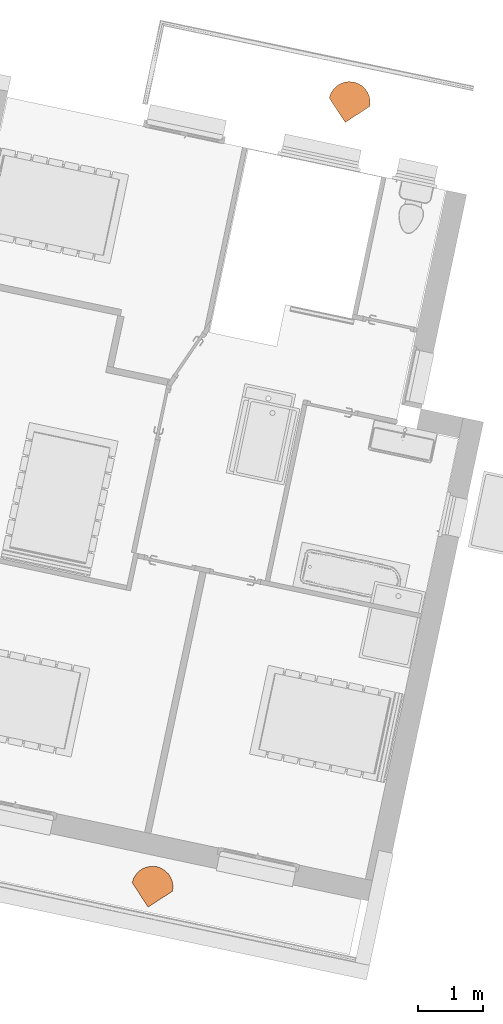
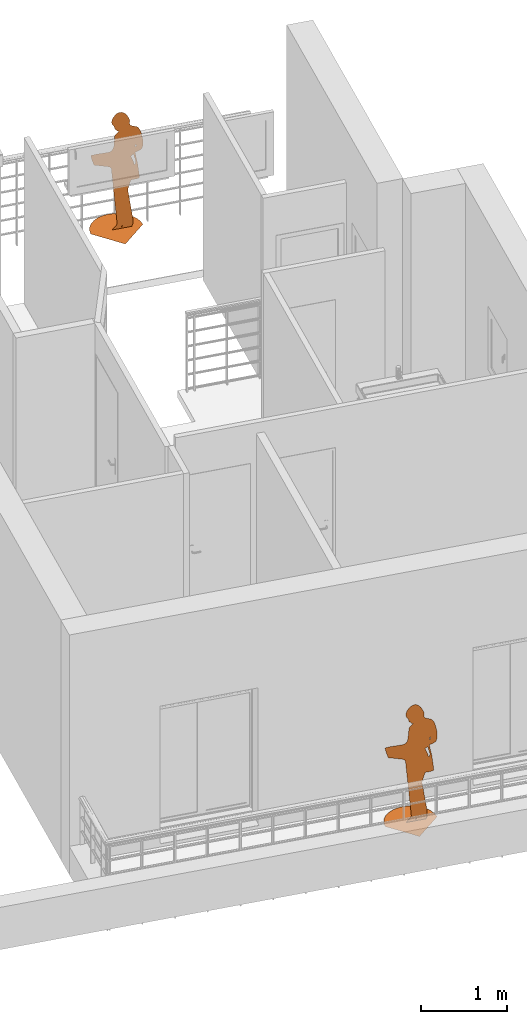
# One storey, part 18 of 18: 2 proxies.
"""IFC2X3 building model written with IfcOpenShell, lengths in metres."""

from ifc_helpers import new_model, entity, si_unit, converted_unit, derived_unit, direction, frame, origin, place, context, subcontext, project, spatial, face_set, surface_model, source, transform, mapped, type_object, type_shapes, element, save


model = new_model("IFC2X3")

# Units and contexts
model_context = context("Model", 3, precision=1e-05, world=origin(), true_north=direction((6.12303176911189e-17, 1.0)))
body_context = subcontext(model_context, "Body", "Model", "MODEL_VIEW")
ifc_project = project(units=[si_unit("LENGTHUNIT", "METRE"), si_unit("AREAUNIT", "SQUARE_METRE"), si_unit("VOLUMEUNIT", "CUBIC_METRE"), converted_unit("PLANEANGLEUNIT", "DEGREE", entity("IfcRatioMeasure", 0.0174532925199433), si_unit("PLANEANGLEUNIT", "RADIAN"), dimensions=[0, 0, 0, 0, 0, 0, 0]), si_unit("MASSUNIT", "GRAM", prefix="KILO"), derived_unit("MASSDENSITYUNIT", [(si_unit("MASSUNIT", "GRAM", prefix="KILO"), 1), (si_unit("LENGTHUNIT", "METRE"), -3)]), si_unit("TIMEUNIT", "SECOND"), si_unit("FREQUENCYUNIT", "HERTZ"), si_unit("THERMODYNAMICTEMPERATUREUNIT", "DEGREE_CELSIUS"), derived_unit("THERMALTRANSMITTANCEUNIT", [(si_unit("MASSUNIT", "GRAM", prefix="KILO"), 1), (si_unit("THERMODYNAMICTEMPERATUREUNIT", "KELVIN"), -1), (si_unit("TIMEUNIT", "SECOND"), -3)]), derived_unit("VOLUMETRICFLOWRATEUNIT", [(si_unit("LENGTHUNIT", "METRE"), 3), (si_unit("TIMEUNIT", "SECOND"), -1)]), si_unit("ELECTRICCURRENTUNIT", "AMPERE"), si_unit("ELECTRICVOLTAGEUNIT", "VOLT"), si_unit("POWERUNIT", "WATT"), si_unit("FORCEUNIT", "NEWTON", prefix="KILO"), si_unit("ILLUMINANCEUNIT", "LUX"), si_unit("LUMINOUSFLUXUNIT", "LUMEN"), si_unit("LUMINOUSINTENSITYUNIT", "CANDELA"), derived_unit("USERDEFINED", [(si_unit("MASSUNIT", "GRAM", prefix="KILO"), -1), (si_unit("LENGTHUNIT", "METRE"), -2), (si_unit("TIMEUNIT", "SECOND"), 3), (si_unit("LUMINOUSFLUXUNIT", "LUMEN"), 1)]), derived_unit("LINEARVELOCITYUNIT", [(si_unit("LENGTHUNIT", "METRE"), 1), (si_unit("TIMEUNIT", "SECOND"), -1)]), si_unit("PRESSUREUNIT", "PASCAL"), derived_unit("USERDEFINED", [(si_unit("LENGTHUNIT", "METRE"), -2), (si_unit("MASSUNIT", "GRAM", prefix="KILO"), 1), (si_unit("TIMEUNIT", "SECOND"), -2)])], contexts=[model_context])

# Site, building, storey, space
site_placement = place(None, origin())
site = spatial("IfcSite", under=ifc_project, at=site_placement, Name="Default", CompositionType="ELEMENT")
building_placement = place(site_placement, origin())
building = spatial("IfcBuilding", under=site, at=building_placement, CompositionType="ELEMENT")
storey_placement = place(building_placement, frame((0.0, 0.0, 2.8)))
storey = spatial("IfcBuildingStorey", under=building, at=storey_placement, Name="ETAGE", CompositionType="ELEMENT", Elevation=2.8)
space_1_placement = place(storey_placement, origin())
space_1 = spatial("IfcSpace", under=storey, at=space_1_placement, Name="656", CompositionType="ELEMENT", InteriorOrExteriorSpace="INTERNAL")

# Proxy
building_element_proxy_type_1 = type_object("IfcBuildingElementProxyType", Name="Lisa", PredefinedType="NOTDEFINED")
shared_shape_1 = source(origin(), body_context, "Body", "SurfaceModel", [
    surface_model("IfcFaceBasedSurfaceModel", [(0.318654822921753, 2.78576924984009e-08, 4.24172741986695e-08), (-4.17865344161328e-08, 0.318654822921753, 4.24172741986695e-08), (-0.318654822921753, 0.0, 4.24172741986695e-08), (0.310230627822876, -0.0730145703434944, 4.24172741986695e-08), (-0.310230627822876, -0.0730146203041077, 4.24172741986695e-08), (0.286238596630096, -0.140066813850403, 4.24172741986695e-08), (-0.286238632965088, -0.14006686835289, 4.24172741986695e-08), (-0.248599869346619, -0.199235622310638, 4.24172741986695e-08), (0.248599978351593, -0.199235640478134, 4.24172741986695e-08), (0.199235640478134, -0.248599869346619, 4.24172741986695e-08), (-0.199235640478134, -0.248599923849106, 4.24172741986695e-08), (-0.140066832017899, -0.286238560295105, 4.24172741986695e-08), (-0.0730145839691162, -0.310230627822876, 4.24172741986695e-08), (1.39288462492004e-08, -0.318654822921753, 4.24172741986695e-08), (0.0730146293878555, -0.310230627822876, 4.24172741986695e-08), (0.140066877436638, -0.286238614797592, 4.24172741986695e-08), (-0.211632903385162, 4.18688860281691e-07, 0.86958950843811), (-0.133775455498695, -2.28444324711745e-06, 0.531148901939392), (-0.171402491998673, -1.25225027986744e-06, 0.660382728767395), (-0.174873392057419, 1.37999741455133e-06, 0.989948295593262), (-0.171280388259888, 1.43756228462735e-06, 0.997155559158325), (-0.0645414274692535, -6.23517512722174e-06, 0.0365050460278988), (-0.181166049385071, 1.2656338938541e-06, 0.975629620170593), (-0.188972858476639, 1.11095285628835e-06, 0.956263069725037), (0.0516611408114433, -6.44441624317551e-06, 0.0103074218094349), (0.0564128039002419, -6.52674214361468e-06, 0.0), (-0.183261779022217, -6.52674214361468e-06, 0.0), (0.042646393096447, -6.36638715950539e-06, 0.0200769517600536), (-0.233749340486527, 2.42748774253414e-06, 1.12109733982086), (-0.228229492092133, 2.40965013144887e-06, 1.11886397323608), (-0.22322620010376, 1.77577831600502e-06, 1.03950130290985), (-0.241853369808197, -1.25381847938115e-06, 0.660186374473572), (-0.258831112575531, -1.22941754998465e-06, 0.663241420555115), (-0.271669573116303, -1.17811702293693e-06, 0.669664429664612), (-0.278426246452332, -1.09142624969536e-06, 0.68051834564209), (-0.253934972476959, 5.4655446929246e-07, 0.885598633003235), (-0.224559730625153, 5.03259847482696e-07, 0.880177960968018), (-0.229693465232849, 6.60111227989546e-07, 0.899816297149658), (-0.22886419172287, 8.63417954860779e-07, 0.925270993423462), (-0.202521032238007, 1.62470223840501e-06, 1.02058610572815), (-0.285405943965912, 1.94348737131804e-06, 1.06049893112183), (-0.295989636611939, 1.99623259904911e-06, 1.0671027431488), (-0.303727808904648, 2.05811147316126e-06, 1.07485023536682), (-0.317308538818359, 2.33260377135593e-06, 1.10921746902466), (-0.237153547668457, 2.46397603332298e-06, 1.12566573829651), (-0.23876551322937, 2.51163382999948e-06, 1.13163267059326), (-0.238908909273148, 2.56298328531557e-06, 1.13806178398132), (-0.237907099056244, 2.61054183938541e-06, 1.14401621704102), (-0.317994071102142, 3.13314370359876e-06, 1.20944754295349), (-0.236083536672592, 2.646829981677e-06, 1.14855961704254), (-0.233761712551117, 2.66436820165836e-06, 1.15075555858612), (-0.225250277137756, 2.42301849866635e-06, 1.12053770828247), (-0.0627427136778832, -6.24094838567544e-06, 0.035782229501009), (-0.066984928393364, -6.2499689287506e-06, 0.034652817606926), (-0.294042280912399, 3.99015323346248e-06, 1.31674797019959), (-0.230288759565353, 2.65538591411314e-06, 1.1496309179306), (0.317035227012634, 2.36809215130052e-06, 1.11366080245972), (0.317668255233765, 2.36430014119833e-06, 1.11318597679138), (0.317994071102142, 2.36026584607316e-06, 1.11268092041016), (0.31348046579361, 2.37804718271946e-06, 1.11490716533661), (0.303952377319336, 1.81530806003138e-06, 1.04445056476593), (0.255927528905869, 2.40043276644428e-06, 1.11770997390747), (0.280753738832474, 1.23499315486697e-06, 0.971793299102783), (0.27324831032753, 1.18284393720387e-06, 0.965264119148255), (0.0939398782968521, 2.36546443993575e-06, 1.1133317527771), (0.0985043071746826, 7.07794528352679e-07, 0.905786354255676), (0.0648742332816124, 2.45548635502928e-06, 1.12460279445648), (0.0771590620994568, 5.85066560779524e-07, 0.89042043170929), (-0.276826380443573, 4.33523169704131e-06, 1.35995274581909), (-0.258249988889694, 4.56890589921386e-06, 1.38920953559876), (-0.246257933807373, 4.64888296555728e-06, 1.39922287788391), (-0.17419383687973, 4.91311113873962e-06, 1.43230501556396), (-0.227347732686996, 2.62045972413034e-06, 1.145257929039), (-0.2238898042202, 2.46086874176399e-06, 1.12527673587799), (-0.0606268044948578, -6.26122326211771e-06, 0.0332437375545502), (0.0471253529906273, 2.64929690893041e-06, 1.14886853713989), (0.0682314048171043, 4.39482785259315e-07, 0.87219298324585), (-0.163307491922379, 5.00621678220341e-06, 1.44396215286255), (-0.065059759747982, 6.61297509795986e-06, 1.64513330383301), (-0.0320003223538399, 6.65984033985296e-06, 1.65100096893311), (0.00246410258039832, 6.55177345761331e-06, 1.63747054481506), (-0.0952937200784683, 6.45076555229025e-06, 1.62482407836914), (0.0289675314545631, 6.35039246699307e-06, 1.61225711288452), (-0.121281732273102, 6.21280174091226e-06, 1.59503040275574), (0.047236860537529, 6.14530346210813e-06, 1.58657946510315), (0.058191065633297, 5.94359036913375e-06, 1.56132432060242), (0.0627491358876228, 5.7523365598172e-06, 1.53737854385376), (0.0618300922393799, 5.57862651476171e-06, 1.51562972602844), (0.0563528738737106, 5.42954249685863e-06, 1.49696385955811), (-0.154837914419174, 5.66796870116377e-06, 1.52681567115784), (0.0332519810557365, 5.14997274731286e-06, 1.46196090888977), (-0.159565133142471, 5.44027788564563e-06, 1.49830796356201), (-0.15723640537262, 5.3901814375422e-06, 1.49203567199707), (-0.156608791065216, 5.18203531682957e-06, 1.46597519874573), (0.0230950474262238, 4.84034357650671e-06, 1.42319437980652), (0.0216613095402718, 4.82252426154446e-06, 1.42096326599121), (0.0209385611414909, 4.8135408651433e-06, 1.41983847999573), (0.0204209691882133, 4.80985391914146e-06, 1.41937688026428), (0.0196026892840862, 4.80792173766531e-06, 1.41913488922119), (0.0179778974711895, 4.80420762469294e-06, 1.41866994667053), (0.015040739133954, 4.79516878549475e-06, 1.41753832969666), (0.0102853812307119, 4.77726686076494e-06, 1.41529689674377), (-0.158168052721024, 5.11227441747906e-06, 1.45724084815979), (-0.00552967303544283, 4.60236368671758e-06, 1.39339852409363), (-0.00913058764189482, 4.57753501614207e-06, 1.3902898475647), (-0.0138403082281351, 4.56198081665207e-06, 1.38834243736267), (-0.0202838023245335, 4.55656156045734e-06, 1.38766399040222), (-0.0231512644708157, 4.53969974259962e-06, 1.38555292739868), (-0.16043608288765, 5.0517780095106e-06, 1.44966660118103), (-0.019312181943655, 4.49289992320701e-06, 1.3796932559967), (0.0201347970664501, 4.16976488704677e-06, 1.3392358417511), (0.0252754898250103, 4.09585769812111e-06, 1.32998248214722), (0.0377544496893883, 2.91605715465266e-06, 1.18226773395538), (-0.225155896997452, 2.56967439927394e-06, 1.13889945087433), (-0.00336177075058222, -5.8615466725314e-06, 0.0832845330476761), (-3.6687809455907e-05, -5.99486996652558e-06, 0.066592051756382), (-0.0585206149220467, -6.29060129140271e-06, 0.0295655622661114), (0.00802700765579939, -6.10689657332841e-06, 0.0525659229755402), (-0.0556450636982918, -6.3550618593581e-06, 0.0214948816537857), (0.0190289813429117, -6.20274663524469e-06, 0.0405652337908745), (-0.0555294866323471, -6.37934469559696e-06, 0.0184546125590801), (-0.0567312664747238, -6.39112573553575e-06, 0.0169795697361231), (-0.0586376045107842, -6.38577550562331e-06, 0.0176494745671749), (-0.0612032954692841, -6.36664496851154e-06, 0.0200446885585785), (-0.0660977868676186, -6.30657214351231e-06, 0.0275659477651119), (-0.0673191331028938, -6.27539554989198e-06, 0.0314693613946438), (-0.196662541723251, -6.21638168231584e-06, 0.0388580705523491), (-0.19543543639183, -5.61610806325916e-06, 0.114014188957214), (-0.209623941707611, 5.69822840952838e-07, 0.88851189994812), (-0.204387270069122, 7.46565884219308e-07, 0.910640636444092), (-0.197108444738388, 9.32436544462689e-07, 0.933912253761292)], [face_set([[[0, 1, 2]], [[3, 0, 2]], [[3, 2, 4]], [[5, 3, 4]], [[5, 4, 6]], [[5, 6, 7]], [[8, 5, 7]], [[9, 8, 7]], [[9, 7, 10]], [[9, 10, 11]], [[9, 11, 12]], [[9, 12, 13]], [[9, 13, 14]], [[9, 14, 15]], [[16, 17, 18]], [[19, 20, 21]], [[22, 19, 21]], [[23, 22, 21]], [[24, 25, 26]], [[27, 24, 26]], [[28, 29, 30]], [[16, 18, 31]], [[16, 31, 32]], [[16, 32, 33]], [[16, 33, 34]], [[16, 34, 35]], [[36, 16, 35]], [[37, 36, 35]], [[38, 37, 35]], [[39, 38, 35]], [[39, 35, 30]], [[28, 30, 40]], [[28, 40, 41]], [[28, 41, 42]], [[28, 42, 43]], [[44, 28, 43]], [[45, 44, 43]], [[46, 45, 43]], [[47, 46, 43]], [[47, 43, 48]], [[49, 47, 48]], [[50, 49, 48]], [[30, 29, 51]], [[52, 21, 20]], [[23, 21, 53]], [[50, 48, 54]], [[55, 50, 54]], [[39, 30, 51]], [[56, 57, 58]], [[59, 56, 58]], [[59, 58, 60]], [[61, 59, 60]], [[61, 60, 62]], [[61, 62, 63]], [[64, 61, 63]], [[64, 63, 65]], [[66, 64, 65]], [[66, 65, 67]], [[55, 54, 68]], [[55, 68, 69]], [[55, 69, 70]], [[55, 70, 71]], [[72, 55, 71]], [[20, 39, 51]], [[20, 51, 73]], [[74, 52, 20]], [[75, 66, 67]], [[75, 67, 76]], [[72, 71, 77]], [[78, 79, 80]], [[81, 78, 80]], [[81, 80, 82]], [[83, 81, 82]], [[83, 82, 84]], [[83, 84, 85]], [[83, 85, 86]], [[83, 86, 87]], [[83, 87, 88]], [[89, 83, 88]], [[89, 88, 90]], [[91, 89, 90]], [[92, 91, 90]], [[93, 92, 90]], [[93, 90, 94]], [[93, 94, 95]], [[93, 95, 96]], [[93, 96, 97]], [[93, 97, 98]], [[93, 98, 99]], [[93, 99, 100]], [[93, 100, 101]], [[102, 93, 101]], [[102, 101, 103]], [[102, 103, 104]], [[102, 104, 105]], [[102, 105, 106]], [[102, 106, 107]], [[108, 102, 107]], [[77, 108, 107]], [[72, 77, 107]], [[72, 107, 109]], [[72, 109, 110]], [[72, 110, 111]], [[72, 111, 112]], [[113, 72, 112]], [[73, 113, 112]], [[73, 112, 75]], [[73, 75, 76]], [[20, 73, 76]], [[74, 20, 76]], [[74, 76, 114]], [[74, 114, 115]], [[116, 74, 115]], [[116, 115, 117]], [[118, 116, 117]], [[118, 117, 119]], [[120, 118, 119]], [[120, 119, 27]], [[121, 120, 27]], [[121, 27, 26]], [[122, 121, 26]], [[123, 122, 26]], [[124, 123, 26]], [[125, 124, 26]], [[125, 26, 126]], [[125, 126, 127]], [[53, 125, 127]], [[17, 16, 128]], [[17, 128, 129]], [[17, 129, 130]], [[17, 130, 23]], [[17, 23, 53]], [[17, 53, 127]]])]),
])
type_shapes(building_element_proxy_type_1, [shared_shape_1])
proxy_1_placement = place(space_1_placement, frame((-15.1795583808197, 74.2573963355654, 0.2), z_axis=(0.0, 0.0, 1.0), x_axis=(-0.978437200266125, 0.206544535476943, 0.0)))
element("IfcBuildingElementProxy", 1, at=proxy_1_placement, inside=space_1, type_object=building_element_proxy_type_1, Name="RPC Femme:Lisa", ObjectType="RPC Femme:Lisa", context=body_context, shape_type="MappedRepresentation", body=[
    mapped(shared_shape_1, transform((0.0, 0.0, 0.0), scale=1.0)),
])

# Space
space_2_placement = place(storey_placement, origin())
space_2 = spatial("IfcSpace", under=storey, at=space_2_placement, Name="657", CompositionType="ELEMENT", InteriorOrExteriorSpace="INTERNAL")

# Proxy
building_element_proxy_type_2 = type_object("IfcBuildingElementProxyType", Name="LaRon", PredefinedType="NOTDEFINED")
shared_shape_2 = source(origin(), body_context, "Body", "SurfaceModel", [
    surface_model("IfcFaceBasedSurfaceModel", [(0.318654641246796, 2.78576751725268e-08, 4.24172482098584e-08), (-4.17865084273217e-08, 0.318654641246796, 4.24172482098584e-08), (-0.318654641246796, 0.0, 4.24172482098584e-08), (0.310230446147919, -0.073014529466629, 4.24172482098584e-08), (-0.310230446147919, -0.0730145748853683, 4.24172482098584e-08), (0.286238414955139, -0.140066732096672, 4.24172482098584e-08), (-0.286238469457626, -0.140066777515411, 4.24172482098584e-08), (-0.248599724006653, -0.199235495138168, 4.24172482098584e-08), (0.248599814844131, -0.199235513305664, 4.24172482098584e-08), (0.199235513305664, -0.248599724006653, 4.24172482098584e-08), (-0.199235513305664, -0.24859977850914, 4.24172482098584e-08), (-0.14006674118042, -0.286238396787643, 4.24172482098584e-08), (-0.0730145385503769, -0.310230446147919, 4.24172482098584e-08), (1.39288375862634e-08, -0.318654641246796, 4.24172482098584e-08), (0.0730145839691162, -0.310230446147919, 4.24172482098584e-08), (0.140066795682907, -0.286238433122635, 4.24172482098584e-08), (-0.211632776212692, 4.18688617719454e-07, 0.86958899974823), (-0.133775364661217, -2.28444186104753e-06, 0.531148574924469), (-0.171402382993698, -1.25224958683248e-06, 0.660382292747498), (-0.174873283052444, 1.37999658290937e-06, 0.989947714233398), (-0.171280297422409, 1.4375613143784e-06, 0.997154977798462), (-0.0645413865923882, -6.23517180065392e-06, 0.0365050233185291), (-0.181165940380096, 1.26563320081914e-06, 0.97562903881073), (-0.188972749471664, 1.11095216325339e-06, 0.956262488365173), (0.0516611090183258, -6.44441236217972e-06, 0.010307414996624), (0.0564127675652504, -6.52673826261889e-06, 0.0), (-0.183261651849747, -6.52673826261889e-06, 0.0), (0.0426463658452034, -6.3663832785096e-06, 0.0200769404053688), (-0.233749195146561, 2.42748635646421e-06, 1.12109668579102), (-0.228229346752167, 2.40964874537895e-06, 1.11886331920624), (-0.223226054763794, 1.77577720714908e-06, 1.03950064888), (-0.241853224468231, -1.25381778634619e-06, 0.660186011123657), (-0.258830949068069, -1.22941685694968e-06, 0.663240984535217), (-0.271669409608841, -1.17811619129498e-06, 0.669664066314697), (-0.278426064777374, -1.0914255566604e-06, 0.680517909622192), (-0.253934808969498, 5.46554157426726e-07, 0.885598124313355), (-0.224559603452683, 5.03259535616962e-07, 0.880177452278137), (-0.229693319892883, 6.60110812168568e-07, 0.899815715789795), (-0.228864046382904, 8.63417469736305e-07, 0.925270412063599), (-0.202520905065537, 1.62470126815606e-06, 1.02058552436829), (-0.285405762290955, 1.94348612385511e-06, 1.06049827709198), (-0.295989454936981, 1.99623135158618e-06, 1.06710208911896), (-0.303727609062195, 2.05811022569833e-06, 1.07484958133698), (-0.317308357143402, 2.33260238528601e-06, 1.10921681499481), (-0.237153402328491, 2.46397437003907e-06, 1.12566501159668), (-0.238765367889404, 2.51163244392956e-06, 1.13163194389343), (-0.238908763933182, 2.56298162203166e-06, 1.13806105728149), (-0.237906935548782, 2.61054017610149e-06, 1.14401549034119), (-0.317993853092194, 3.13314176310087e-06, 1.20944681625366), (-0.236083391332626, 2.64682859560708e-06, 1.1485589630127), (-0.233761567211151, 2.66436653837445e-06, 1.15075483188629), (-0.225250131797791, 2.42301711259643e-06, 1.12053705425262), (-0.0627426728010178, -6.24094450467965e-06, 0.0357822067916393), (-0.0669848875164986, -6.24996504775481e-06, 0.0346527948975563), (-0.294042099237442, 3.99015073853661e-06, 1.31674709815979), (-0.230288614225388, 2.65538425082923e-06, 1.14963019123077), (0.317035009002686, 2.36809048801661e-06, 1.11366014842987), (0.317668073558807, 2.36429847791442e-06, 1.11318532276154), (0.317993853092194, 2.36026446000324e-06, 1.11268019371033), (0.313480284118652, 2.37804579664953e-06, 1.11490651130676), (0.303952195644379, 1.81530695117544e-06, 1.04444991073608), (0.255927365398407, 2.40043110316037e-06, 1.11770924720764), (0.280753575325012, 1.23499246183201e-06, 0.97179271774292), (0.273248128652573, 1.18284324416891e-06, 0.965263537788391), (0.0939398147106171, 2.36546305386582e-06, 1.11333109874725), (0.0985042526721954, 7.07794043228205e-07, 0.905785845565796), (0.0648741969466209, 2.45548496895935e-06, 1.12460214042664), (0.0771590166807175, 5.85066214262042e-07, 0.890419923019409), (-0.276826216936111, 4.33522920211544e-06, 1.35995201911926), (-0.258249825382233, 4.56890312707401e-06, 1.38920866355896), (-0.246257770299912, 4.64888019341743e-06, 1.39922200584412), (-0.174193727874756, 4.91310836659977e-06, 1.43230414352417), (-0.227347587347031, 2.62045806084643e-06, 1.14525727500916), (-0.223889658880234, 2.46086735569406e-06, 1.12527600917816), (-0.0606267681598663, -6.26121938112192e-06, 0.0332437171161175), (0.0471253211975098, 2.6492952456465e-06, 1.14886781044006), (0.068231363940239, 4.39482542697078e-07, 0.872192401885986), (-0.1633074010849, 5.00621401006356e-06, 1.44396128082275), (-0.0650597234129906, 6.61297121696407e-06, 1.64513228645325), (-0.0320003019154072, 6.65983645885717e-06, 1.65099995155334), (0.0024641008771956, 6.55176957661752e-06, 1.6374695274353), (-0.0952936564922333, 6.45076111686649e-06, 1.62482306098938), (0.0289675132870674, 6.35038858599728e-06, 1.61225609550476), (-0.121281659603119, 6.21279785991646e-06, 1.59502938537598), (0.0472368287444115, 6.14529958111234e-06, 1.58657844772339), (0.0581910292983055, 5.94358648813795e-06, 1.56132330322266), (0.0627490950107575, 5.7523326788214e-06, 1.53737767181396), (0.0618300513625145, 5.57862318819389e-06, 1.51562885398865), (0.0563528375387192, 5.42953917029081e-06, 1.49696284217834), (-0.154837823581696, 5.66796537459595e-06, 1.52681465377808), (0.0332519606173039, 5.14996942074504e-06, 1.46196003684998), (-0.159565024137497, 5.44027455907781e-06, 1.49830709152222), (-0.157236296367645, 5.39017811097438e-06, 1.49203479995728), (-0.156608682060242, 5.18203199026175e-06, 1.46597432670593), (0.023095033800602, 4.84034080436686e-06, 1.42319350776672), (0.02166129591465, 4.82252148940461e-06, 1.42096239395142), (0.0209385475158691, 4.81353753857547e-06, 1.41983760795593), (0.0204209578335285, 4.80985059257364e-06, 1.41937600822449), (0.0196026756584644, 4.80791841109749e-06, 1.4191340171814), (0.0179778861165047, 4.80420429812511e-06, 1.41866907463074), (0.0150407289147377, 4.79516545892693e-06, 1.41753745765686), (0.0102853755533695, 4.77726408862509e-06, 1.41529602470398), (-0.158167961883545, 5.11227109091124e-06, 1.45723997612), (-0.00552966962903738, 4.60236091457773e-06, 1.39339765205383), (-0.0091305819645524, 4.57753224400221e-06, 1.3902889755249), (-0.0138402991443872, 4.56197804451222e-06, 1.38834156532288), (-0.0202837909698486, 4.55655878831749e-06, 1.38766311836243), (-0.0231512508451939, 4.53969697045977e-06, 1.38555205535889), (-0.160435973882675, 5.05177468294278e-06, 1.44966572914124), (-0.0193121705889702, 4.49289715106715e-06, 1.37969238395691), (0.0201347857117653, 4.1697623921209e-06, 1.3392349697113), (0.0252754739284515, 4.09585520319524e-06, 1.32998161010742), (0.0377544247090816, 2.91605549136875e-06, 1.18226700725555), (-0.225155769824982, 2.56967273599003e-06, 1.1388987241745), (-0.00336176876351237, -5.86154334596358e-06, 0.0832844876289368), (-3.66877872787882e-05, -5.99486608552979e-06, 0.0665920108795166), (-0.0585205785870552, -6.29059741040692e-06, 0.0295655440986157), (0.00802700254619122, -6.10689269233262e-06, 0.0525658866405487), (-0.0556450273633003, -6.35505797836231e-06, 0.0214948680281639), (0.0190289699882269, -6.20274330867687e-06, 0.0405652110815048), (-0.0555294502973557, -6.37934026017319e-06, 0.0184546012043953), (-0.0567312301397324, -6.39112185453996e-06, 0.0169795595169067), (-0.0586375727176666, -6.38577162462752e-06, 0.0176494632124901), (-0.0612032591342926, -6.36664053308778e-06, 0.0200446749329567), (-0.0660977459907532, -6.30656770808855e-06, 0.0275659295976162), (-0.0673190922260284, -6.27539166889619e-06, 0.0314693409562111), (-0.196662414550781, -6.21637780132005e-06, 0.0388580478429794), (-0.195435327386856, -5.61610473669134e-06, 0.114014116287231), (-0.209623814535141, 5.69822459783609e-07, 0.888511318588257), (-0.204387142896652, 7.46565399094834e-07, 0.910640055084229), (-0.197108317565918, 9.32435990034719e-07, 0.933911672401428)], [face_set([[[0, 1, 2]], [[3, 0, 2]], [[3, 2, 4]], [[5, 3, 4]], [[5, 4, 6]], [[5, 6, 7]], [[8, 5, 7]], [[9, 8, 7]], [[9, 7, 10]], [[9, 10, 11]], [[9, 11, 12]], [[9, 12, 13]], [[9, 13, 14]], [[9, 14, 15]], [[16, 17, 18]], [[19, 20, 21]], [[22, 19, 21]], [[23, 22, 21]], [[24, 25, 26]], [[27, 24, 26]], [[28, 29, 30]], [[16, 18, 31]], [[16, 31, 32]], [[16, 32, 33]], [[16, 33, 34]], [[16, 34, 35]], [[36, 16, 35]], [[37, 36, 35]], [[38, 37, 35]], [[39, 38, 35]], [[39, 35, 30]], [[28, 30, 40]], [[28, 40, 41]], [[28, 41, 42]], [[28, 42, 43]], [[44, 28, 43]], [[45, 44, 43]], [[46, 45, 43]], [[47, 46, 43]], [[47, 43, 48]], [[49, 47, 48]], [[50, 49, 48]], [[30, 29, 51]], [[52, 21, 20]], [[23, 21, 53]], [[50, 48, 54]], [[55, 50, 54]], [[39, 30, 51]], [[56, 57, 58]], [[59, 56, 58]], [[59, 58, 60]], [[61, 59, 60]], [[61, 60, 62]], [[61, 62, 63]], [[64, 61, 63]], [[64, 63, 65]], [[66, 64, 65]], [[66, 65, 67]], [[55, 54, 68]], [[55, 68, 69]], [[55, 69, 70]], [[55, 70, 71]], [[72, 55, 71]], [[20, 39, 51]], [[20, 51, 73]], [[74, 52, 20]], [[75, 66, 67]], [[75, 67, 76]], [[72, 71, 77]], [[78, 79, 80]], [[81, 78, 80]], [[81, 80, 82]], [[83, 81, 82]], [[83, 82, 84]], [[83, 84, 85]], [[83, 85, 86]], [[83, 86, 87]], [[83, 87, 88]], [[89, 83, 88]], [[89, 88, 90]], [[91, 89, 90]], [[92, 91, 90]], [[93, 92, 90]], [[93, 90, 94]], [[93, 94, 95]], [[93, 95, 96]], [[93, 96, 97]], [[93, 97, 98]], [[93, 98, 99]], [[93, 99, 100]], [[93, 100, 101]], [[102, 93, 101]], [[102, 101, 103]], [[102, 103, 104]], [[102, 104, 105]], [[102, 105, 106]], [[102, 106, 107]], [[108, 102, 107]], [[77, 108, 107]], [[72, 77, 107]], [[72, 107, 109]], [[72, 109, 110]], [[72, 110, 111]], [[72, 111, 112]], [[113, 72, 112]], [[73, 113, 112]], [[73, 112, 75]], [[73, 75, 76]], [[20, 73, 76]], [[74, 20, 76]], [[74, 76, 114]], [[74, 114, 115]], [[116, 74, 115]], [[116, 115, 117]], [[118, 116, 117]], [[118, 117, 119]], [[120, 118, 119]], [[120, 119, 27]], [[121, 120, 27]], [[121, 27, 26]], [[122, 121, 26]], [[123, 122, 26]], [[124, 123, 26]], [[125, 124, 26]], [[125, 26, 126]], [[125, 126, 127]], [[53, 125, 127]], [[17, 16, 128]], [[17, 128, 129]], [[17, 129, 130]], [[17, 130, 23]], [[17, 23, 53]], [[17, 53, 127]]])]),
])
type_shapes(building_element_proxy_type_2, [shared_shape_2])
proxy_2_placement = place(space_2_placement, frame((-12.1371259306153, 86.3697236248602, 0.2), z_axis=(0.0, 0.0, 1.0), x_axis=(-0.978437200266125, 0.206544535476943, 0.0)))
element("IfcBuildingElementProxy", 2, at=proxy_2_placement, inside=space_2, type_object=building_element_proxy_type_2, Name="RPC Homme:LaRon", ObjectType="RPC Homme:LaRon", context=body_context, shape_type="MappedRepresentation", body=[
    mapped(shared_shape_2, transform((0.0, 0.0, 0.0), scale=1.0)),
])

save(model, "model.ifc")
